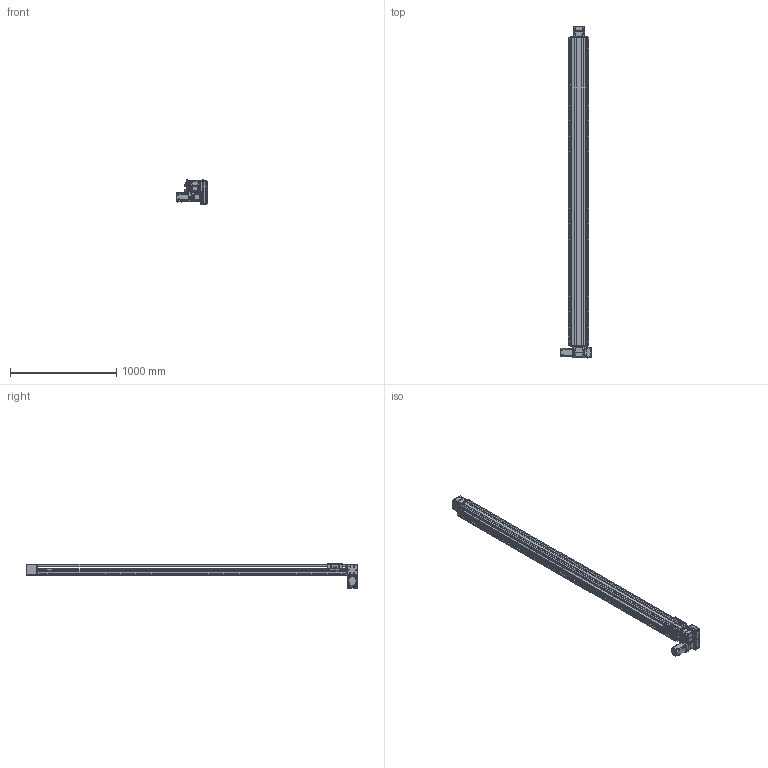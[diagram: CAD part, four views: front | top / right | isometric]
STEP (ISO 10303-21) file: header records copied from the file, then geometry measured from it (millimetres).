
FILE_DESCRIPTION(/* description */ (''),/* implementation_level */ '2;1');
FILE_NAME(/* name */ '\\192.168.0.160\disk1\HAN SHIN Master\B-설계부문\C-표준\B-2024년\BC02-표준도면\+로봇 개선표준도면\홈페이지 표준 도면\홈페이지 최종 작업 폴더\3D\HB\HB160-DR7G-N-2700-L.stp',/* time_stamp */ '2025-01-14T10:42:43+09:00',/* author */ ('user'),/* organization */ (''),/* preprocessor_version */ 'ST-DEVELOPER v18.1',/* originating_system */ 'Autodesk Inventor 2022',/* authorisation */ '');
FILE_SCHEMA (('AUTOMOTIVE_DESIGN { 1 0 10303 214 3 1 1 }'));
Products named in the file (41): HSB160-DR7G-N-0500-L; BASE; HSB160 TABLE (TEST); FORNT HOUSUNG-1 (Connecting); UPCOVER; HSB160 COVER-1; REAR HOUSUNG-1---; HSB160 REAR SHAFT-2; REAR SHAFT--2; 6004ZZ; 6004ZZ Outer ring; 6004ZZ Shield1; 6004ZZ Inner ring; 6004ZZ Ball; 6004ZZ Shield2; STOPPER3; TENSION PLATE; HSB160 ARC COVER; hsr_ftht_A-M6F_grease_nipple_joint; NIPPLE CAP(신규); HSB160 SHAFT-1; HSB160 END COVER; HR120 SENSOR DOG; SENSOR BRK(EE-SX674A); EE_SX674A; hg-kr73_; PGX90-H-1_3; 6206ZZ; 6206ZZ Outer ring; 6206ZZ Shield1; 6206ZZ Inner ring; 6206ZZ Ball; 6206ZZ Shield2; D MOTOR PLATE ASSY; HSB160 D MOTOR PLATE; HR160 400W LR BELT COVER; 750W MOTOR PLATE; HR180 ACRYL COVER - 1; HR180 ACRYL COVER - 1_1; HR180 ACRYL COVER - 1_2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
Assembly tree (85 placements, depth 3):
  HSB160-DR7G-N-0500-L
    BASE
    HSB160 TABLE (TEST)
    FORNT HOUSUNG-1 (Connecting)
    6206ZZ  x2
      6206ZZ Outer ring
      6206ZZ Shield1
      6206ZZ Inner ring
      6206ZZ Ball
      6206ZZ Shield2
    UPCOVER
    HSB160 COVER-1  x2
    REAR HOUSUNG-1---
    6004ZZ  x2
      6004ZZ Outer ring
      6004ZZ Shield1
      6004ZZ Inner ring
      6004ZZ Ball
      6004ZZ Shield2
    HSB160 REAR SHAFT-2
    REAR SHAFT--2
    TENSION PLATE  x2
    HSB160 ARC COVER  x4
    STOPPER3  x4
    hsr_ftht_A-M6F_grease_nipple_joint  x4
    NIPPLE CAP(신규)  x4
    HSB160 SHAFT-1
    HSB160 END COVER
    SENSOR BRK(EE-SX674A)  x3
    EE_SX674A  x3
    HR120 SENSOR DOG
    hg-kr73_
    PGX90-H-1_3
    D MOTOR PLATE ASSY
      HSB160 D MOTOR PLATE
      HR160 400W LR BELT COVER
      750W MOTOR PLATE
      HR180 ACRYL COVER - 1_2  x2
      HR180 ACRYL COVER - 1
      HR180 ACRYL COVER - 1_1
    HSB160 BEARING COVER_대칭도
Bounding box: 284.5 x 3128.5 x 226.5 mm (x, y, z)
Volume: 16943394.7 mm3; surface area: 3936675.6 mm2
Topology: 129 solids, 131 shells, 6622 faces, 18259 edges, 12000 vertices
Faces by surface type: plane 4646, cylinder 1423, cone 381, sphere 88, torus 59, bspline 25
Full cylindrical faces by diameter (mm): 2.013 x2, 2.459 x54, 3 x20, 3.242 x42, 3.4 x22, 3.5 x6, 4.134 x18, 4.2 x4, 4.5 x40, 4.917 x88, 5 x44, 5.1 x1, 5.5 x25, 5.6 x4, 5.9 x4, 6 x21, 6.5 x9, 6.6 x18, 6.8 x9, 7 x32, 7.6 x4, 8 x5, 8.376 x30, 8.433 x2, 9 x4, 9.5 x31, 10 x5, 11 x28, 15 x8, 18.5 x2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
Entity records: 124230 total; most frequent: CARTESIAN_POINT 23424, DIRECTION 20734, ORIENTED_EDGE 20094, EDGE_CURVE 10047, AXIS2_PLACEMENT_3D 7085, VERTEX_POINT 6641, LINE 6564, VECTOR 6564
